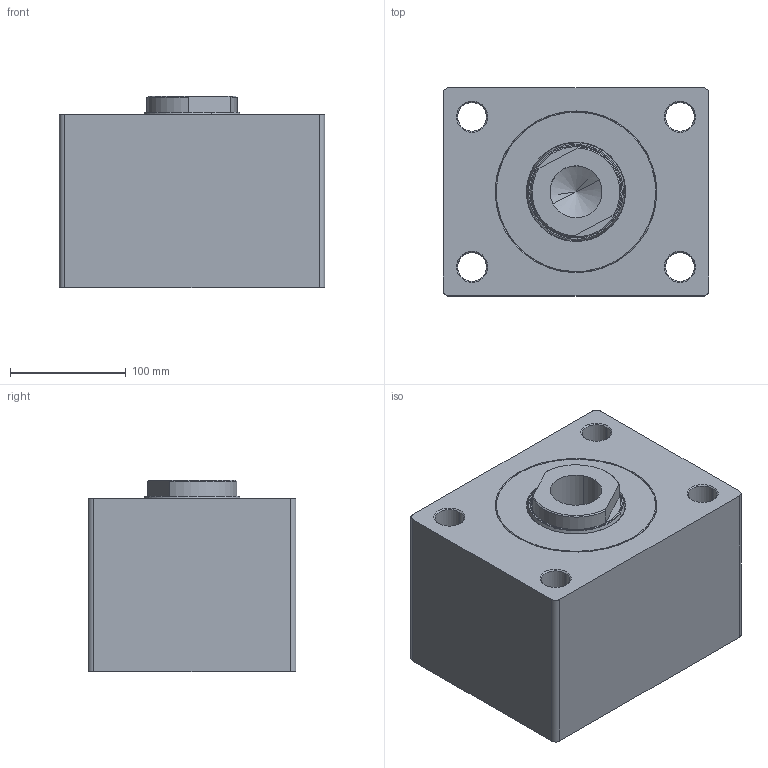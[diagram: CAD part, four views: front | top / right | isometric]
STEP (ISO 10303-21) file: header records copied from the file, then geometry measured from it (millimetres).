
FILE_DESCRIPTION (( 'STEP AP214' ), '1' );
FILE_NAME ('KBZ_02_125_80_40.STEP', '2023-05-19T20:47:53', ( '' ), ( '' ), 'SwSTEP 2.0', 'SolidWorks 2021', '' );
FILE_SCHEMA (( 'AUTOMOTIVE_DESIGN' ));
Length unit declared in the file: millimetre
Products named in the file (9): K84-128; K06-80X92_2X7_2X12(K06_080); KBZ_02_125_80_40; KBZ_02_125_GOVDE_WEB; KBZ_02_125_80_ON_KAPAK; KBZ_80_K_MIL_WEB; K22-80X90X12(K22_080); K68-80X85X9_7(K68_080_3)
Assembly tree (8 placements, depth 3):
  KBZ_02_125_80_40
    KBZ_02_125_GOVDE_WEB
    KBZ_80_K_MIL_WEB
    KBZ_02_125_80_ON_KAPAK
      KBZ_02_125_80_ON_KAPAK
      K06-80X92_2X7_2X12(K06_080)
      K22-80X90X12(K22_080)
      K68-80X85X9_7(K68_080_3)
      K84-128
Bounding box: 230 x 180 x 166 mm (x, y, z)
Volume: 5754348.6 mm3; surface area: 434066.6 mm2
Topology: 7 solids, 7 shells, 571 faces, 1379 edges, 877 vertices
Faces by surface type: bspline 247, plane 186, cylinder 71, cone 65, torus 2
Entity records: 27319 total; most frequent: CARTESIAN_POINT 15231, ORIENTED_EDGE 2754, DIRECTION 1738, EDGE_CURVE 1377, VERTEX_POINT 877, LINE 660, VECTOR 660, EDGE_LOOP 646
